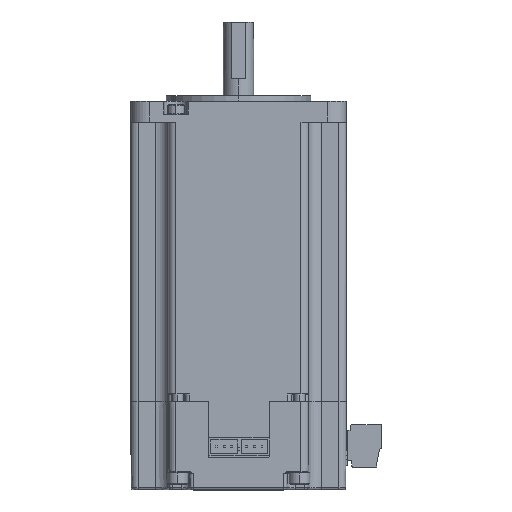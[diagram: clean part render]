
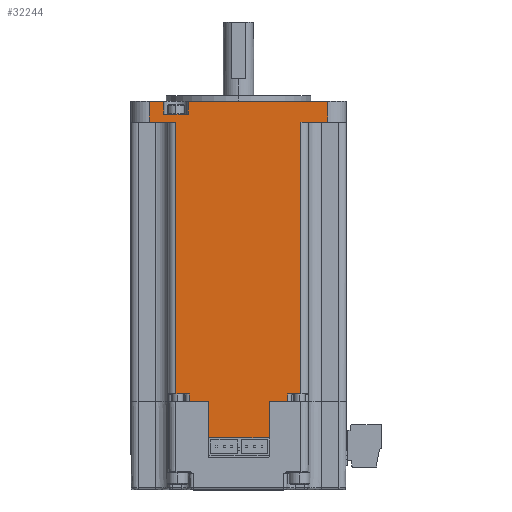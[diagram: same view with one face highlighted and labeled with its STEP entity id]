
A CAD part, top view. The second image highlights one B-rep face of the part: STEP entity #32244.
In plain terms, the highlighted planar face has unit normal (0, 0, 1).
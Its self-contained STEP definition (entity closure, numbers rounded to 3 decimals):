
#154=DIRECTION('',(1.,0.,0.));
#155=VECTOR('',#154,4.8);
#156=CARTESIAN_POINT('',(15.5,-79.25,0.));
#157=LINE('',#156,#155);
#158=DIRECTION('',(-1.,0.,0.));
#159=VECTOR('',#158,3.87);
#160=CARTESIAN_POINT('',(8.8,0.,0.));
#161=LINE('',#160,#159);
#162=DIRECTION('',(0.,-1.,0.));
#163=VECTOR('',#162,3.4);
#164=CARTESIAN_POINT('',(15.2,0.,0.));
#165=LINE('',#164,#163);
#166=DIRECTION('',(-1.,0.,0.));
#167=VECTOR('',#166,36.87);
#168=CARTESIAN_POINT('',(52.07,0.,0.));
#169=LINE('',#168,#167);
#170=DIRECTION('',(-1.,0.,0.));
#171=VECTOR('',#170,4.55);
#172=CARTESIAN_POINT('',(41.5,-79.25,0.));
#173=LINE('',#172,#171);
#174=DIRECTION('',(1.,0.,0.));
#175=VECTOR('',#174,0.35);
#176=CARTESIAN_POINT('',(36.6,-79.25,0.));
#177=LINE('',#176,#175);
#178=DIRECTION('',(0.,-1.,0.));
#179=VECTOR('',#178,9.5);
#180=CARTESIAN_POINT('',(20.6,-79.25,0.));
#181=LINE('',#180,#179);
#182=DIRECTION('',(1.,0.,0.));
#183=VECTOR('',#182,0.3);
#184=CARTESIAN_POINT('',(20.3,-79.25,0.));
#185=LINE('',#184,#183);
#286=DIRECTION('',(-1.,0.,0.));
#287=VECTOR('',#286,16.);
#288=CARTESIAN_POINT('',(36.6,-88.75,0.));
#289=LINE('',#288,#287);
#310=DIRECTION('',(0.,-1.,0.));
#311=VECTOR('',#310,9.5);
#312=CARTESIAN_POINT('',(36.6,-79.25,0.));
#313=LINE('',#312,#311);
#1570=DIRECTION('',(0.,1.,0.));
#1571=VECTOR('',#1570,2.);
#1572=CARTESIAN_POINT('',(41.5,-79.25,0.));
#1573=LINE('',#1572,#1571);
#1592=DIRECTION('',(-1.,0.,0.));
#1593=VECTOR('',#1592,3.5);
#1594=CARTESIAN_POINT('',(15.5,-77.25,0.));
#1595=LINE('',#1594,#1593);
#1721=DIRECTION('',(-1.,0.,0.));
#1722=VECTOR('',#1721,3.5);
#1723=CARTESIAN_POINT('',(45.,-77.25,0.));
#1724=LINE('',#1723,#1722);
#1788=DIRECTION('',(0.,-1.,0.));
#1789=VECTOR('',#1788,71.75);
#1790=CARTESIAN_POINT('',(12.,-5.5,0.));
#1791=LINE('',#1790,#1789);
#1811=DIRECTION('',(-1.,0.,0.));
#1812=VECTOR('',#1811,7.07);
#1813=CARTESIAN_POINT('',(12.,-5.5,0.));
#1814=LINE('',#1813,#1812);
#2292=DIRECTION('',(-1.,0.,0.));
#2293=VECTOR('',#2292,7.07);
#2294=CARTESIAN_POINT('',(52.07,-5.5,0.));
#2295=LINE('',#2294,#2293);
#2325=DIRECTION('',(0.,1.,0.));
#2326=VECTOR('',#2325,71.75);
#2327=CARTESIAN_POINT('',(45.,-77.25,0.));
#2328=LINE('',#2327,#2326);
#2329=DIRECTION('',(0.,1.,0.));
#2330=VECTOR('',#2329,5.5);
#2331=CARTESIAN_POINT('',(52.07,-5.5,0.));
#2332=LINE('',#2331,#2330);
#10786=DIRECTION('',(0.,-1.,0.));
#10787=VECTOR('',#10786,2.);
#10788=CARTESIAN_POINT('',(15.5,-77.25,0.));
#10789=LINE('',#10788,#10787);
#16478=DIRECTION('',(0.,-1.,0.));
#16479=VECTOR('',#16478,5.5);
#16480=CARTESIAN_POINT('',(4.93,0.,0.));
#16481=LINE('',#16480,#16479);
#25325=DIRECTION('',(0.,1.,0.));
#25326=VECTOR('',#25325,3.4);
#25327=CARTESIAN_POINT('',(8.8,-3.4,0.));
#25328=LINE('',#25327,#25326);
#25338=DIRECTION('',(-1.,0.,0.));
#25339=VECTOR('',#25338,6.4);
#25340=CARTESIAN_POINT('',(15.2,-3.4,0.));
#25341=LINE('',#25340,#25339);
#27348=CARTESIAN_POINT('',(15.2,0.,0.));
#27349=VERTEX_POINT('',#27348);
#27350=CARTESIAN_POINT('',(52.07,0.,0.));
#27351=VERTEX_POINT('',#27350);
#27390=CARTESIAN_POINT('',(4.93,0.,0.));
#27391=VERTEX_POINT('',#27390);
#27392=CARTESIAN_POINT('',(8.8,0.,0.));
#27393=VERTEX_POINT('',#27392);
#27414=CARTESIAN_POINT('',(15.2,-3.4,0.));
#27415=VERTEX_POINT('',#27414);
#27416=CARTESIAN_POINT('',(52.07,-5.5,0.));
#27417=CARTESIAN_POINT('',(45.,-5.5,0.));
#27418=VERTEX_POINT('',#27416);
#27419=VERTEX_POINT('',#27417);
#27420=CARTESIAN_POINT('',(45.,-77.25,0.));
#27421=VERTEX_POINT('',#27420);
#27422=CARTESIAN_POINT('',(12.,-5.5,0.));
#27423=CARTESIAN_POINT('',(12.,-77.25,0.));
#27424=VERTEX_POINT('',#27422);
#27425=VERTEX_POINT('',#27423);
#27426=CARTESIAN_POINT('',(4.93,-5.5,0.));
#27427=VERTEX_POINT('',#27426);
#27428=CARTESIAN_POINT('',(8.8,-3.4,0.));
#27429=VERTEX_POINT('',#27428);
#27889=CARTESIAN_POINT('',(20.6,-79.25,0.));
#27891=VERTEX_POINT('',#27889);
#27898=CARTESIAN_POINT('',(36.6,-79.25,0.));
#27900=VERTEX_POINT('',#27898);
#28303=CARTESIAN_POINT('',(20.6,-88.75,0.));
#28304=VERTEX_POINT('',#28303);
#28305=CARTESIAN_POINT('',(36.6,-88.75,0.));
#28306=VERTEX_POINT('',#28305);
#31635=CARTESIAN_POINT('',(15.5,-77.25,0.));
#31637=VERTEX_POINT('',#31635);
#31641=CARTESIAN_POINT('',(41.5,-77.25,0.));
#31643=VERTEX_POINT('',#31641);
#31655=CARTESIAN_POINT('',(15.5,-79.25,0.));
#31656=CARTESIAN_POINT('',(20.3,-79.25,0.));
#31657=VERTEX_POINT('',#31655);
#31658=VERTEX_POINT('',#31656);
#31659=CARTESIAN_POINT('',(41.5,-79.25,0.));
#31660=CARTESIAN_POINT('',(36.95,-79.25,0.));
#31661=VERTEX_POINT('',#31659);
#31662=VERTEX_POINT('',#31660);
#32196=CARTESIAN_POINT('',(28.5,-38.625,0.));
#32197=DIRECTION('',(0.,0.,1.));
#32198=DIRECTION('',(1.,0.,0.));
#32199=AXIS2_PLACEMENT_3D('',#32196,#32197,#32198);
#32200=PLANE('',#32199);
#32202=ORIENTED_EDGE('',*,*,#32201,.F.);
#32204=ORIENTED_EDGE('',*,*,#32203,.F.);
#32206=ORIENTED_EDGE('',*,*,#32205,.T.);
#32208=ORIENTED_EDGE('',*,*,#32207,.F.);
#32210=ORIENTED_EDGE('',*,*,#32209,.T.);
#32212=ORIENTED_EDGE('',*,*,#32211,.F.);
#32213=ORIENTED_EDGE('',*,*,#32069,.F.);
#32215=ORIENTED_EDGE('',*,*,#32214,.F.);
#32217=ORIENTED_EDGE('',*,*,#32216,.F.);
#32218=ORIENTED_EDGE('',*,*,#32181,.F.);
#32219=ORIENTED_EDGE('',*,*,#32111,.F.);
#32221=ORIENTED_EDGE('',*,*,#32220,.F.);
#32223=ORIENTED_EDGE('',*,*,#32222,.T.);
#32225=ORIENTED_EDGE('',*,*,#32224,.F.);
#32227=ORIENTED_EDGE('',*,*,#32226,.T.);
#32229=ORIENTED_EDGE('',*,*,#32228,.F.);
#32231=ORIENTED_EDGE('',*,*,#32230,.T.);
#32233=ORIENTED_EDGE('',*,*,#32232,.F.);
#32235=ORIENTED_EDGE('',*,*,#32234,.T.);
#32237=ORIENTED_EDGE('',*,*,#32236,.T.);
#32239=ORIENTED_EDGE('',*,*,#32238,.F.);
#32241=ORIENTED_EDGE('',*,*,#32240,.F.);
#32242=EDGE_LOOP('',(#32202,#32204,#32206,#32208,#32210,#32212,#32213,#32215,
#32217,#32218,#32219,#32221,#32223,#32225,#32227,#32229,#32231,#32233,#32235,
#32237,#32239,#32241));
#32243=FACE_OUTER_BOUND('',#32242,.F.);
#32244=ADVANCED_FACE('',(#32243),#32200,.T.);
#32069=EDGE_CURVE('',#27393,#27391,#161,.T.);
#32111=EDGE_CURVE('',#27351,#27349,#169,.T.);
#32181=EDGE_CURVE('',#27349,#27415,#165,.T.);
#32201=EDGE_CURVE('',#31657,#31658,#157,.T.);
#32203=EDGE_CURVE('',#31637,#31657,#10789,.T.);
#32205=EDGE_CURVE('',#31637,#27425,#1595,.T.);
#32207=EDGE_CURVE('',#27424,#27425,#1791,.T.);
#32209=EDGE_CURVE('',#27424,#27427,#1814,.T.);
#32211=EDGE_CURVE('',#27391,#27427,#16481,.T.);
#32214=EDGE_CURVE('',#27429,#27393,#25328,.T.);
#32216=EDGE_CURVE('',#27415,#27429,#25341,.T.);
#32220=EDGE_CURVE('',#27418,#27351,#2332,.T.);
#32222=EDGE_CURVE('',#27418,#27419,#2295,.T.);
#32224=EDGE_CURVE('',#27421,#27419,#2328,.T.);
#32226=EDGE_CURVE('',#27421,#31643,#1724,.T.);
#32228=EDGE_CURVE('',#31661,#31643,#1573,.T.);
#32230=EDGE_CURVE('',#31661,#31662,#173,.T.);
#32232=EDGE_CURVE('',#27900,#31662,#177,.T.);
#32234=EDGE_CURVE('',#27900,#28306,#313,.T.);
#32236=EDGE_CURVE('',#28306,#28304,#289,.T.);
#32238=EDGE_CURVE('',#27891,#28304,#181,.T.);
#32240=EDGE_CURVE('',#31658,#27891,#185,.T.);
